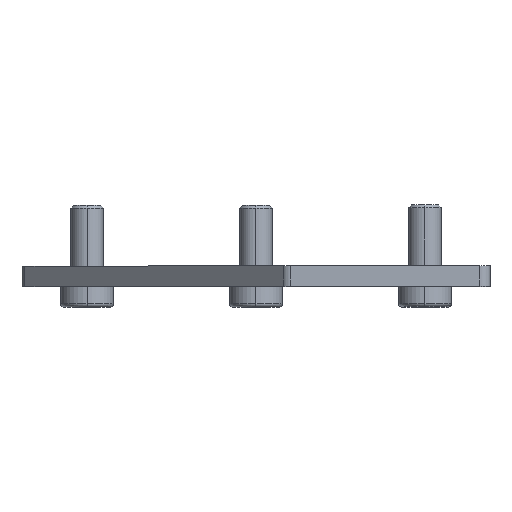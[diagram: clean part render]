
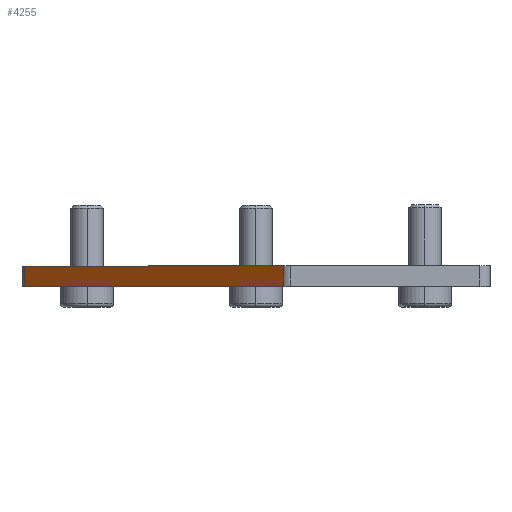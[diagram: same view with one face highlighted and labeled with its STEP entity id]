
A CAD part, top view. The second image highlights one B-rep face of the part: STEP entity #4255.
In plain terms, the highlighted planar face has unit normal (-0.707, 0, 0.707).
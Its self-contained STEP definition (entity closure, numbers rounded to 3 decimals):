
#368 = CARTESIAN_POINT ( 'NONE',  ( 595.161, 856.619, 1272.617 ) ) ;
#617 = CARTESIAN_POINT ( 'NONE',  ( 658.696, 861.619, 1336.153 ) ) ;
#660 = VECTOR ( 'NONE', #2307, 1000. ) ;
#2241 = VERTEX_POINT ( 'NONE', #4821 ) ;
#2253 = EDGE_CURVE ( 'NONE', #7002, #3019, #6552, .T. ) ;
#2307 = DIRECTION ( 'NONE',  ( 0.707, 0., 0.707 ) ) ;
#2325 = EDGE_CURVE ( 'NONE', #7002, #4850, #4448, .T. ) ;
#2431 = FACE_OUTER_BOUND ( 'NONE', #3862, .T. ) ;
#2946 = VECTOR ( 'NONE', #5824, 1000. ) ;
#2968 = DIRECTION ( 'NONE',  ( -0.707, 0., -0.707 ) ) ;
#3019 = VERTEX_POINT ( 'NONE', #368 ) ;
#3029 = DIRECTION ( 'NONE',  ( 0., 1., 0. ) ) ;
#3387 = AXIS2_PLACEMENT_3D ( 'NONE', #4583, #6687, #2968 ) ;
#3569 = LINE ( 'NONE', #5710, #4009 ) ;
#3701 = CARTESIAN_POINT ( 'NONE',  ( 659.429, 856.619, 1336.885 ) ) ;
#3717 = ORIENTED_EDGE ( 'NONE', *, *, #6373, .T. ) ;
#3862 = EDGE_LOOP ( 'NONE', ( #3717, #5640, #4410, #5346 ) ) ;
#3897 = DIRECTION ( 'NONE',  ( 0., -1., 0. ) ) ;
#4009 = VECTOR ( 'NONE', #3029, 1000. ) ;
#4255 = ADVANCED_FACE ( 'NONE', ( #2431 ), #6215, .F. ) ;
#4410 = ORIENTED_EDGE ( 'NONE', *, *, #2325, .F. ) ;
#4448 = LINE ( 'NONE', #6054, #660 ) ;
#4583 = CARTESIAN_POINT ( 'NONE',  ( 659.429, 861.619, 1336.885 ) ) ;
#4821 = CARTESIAN_POINT ( 'NONE',  ( 658.696, 856.619, 1336.153 ) ) ;
#4850 = VERTEX_POINT ( 'NONE', #617 ) ;
#5095 = VECTOR ( 'NONE', #3897, 1000. ) ;
#5346 = ORIENTED_EDGE ( 'NONE', *, *, #2253, .T. ) ;
#5640 = ORIENTED_EDGE ( 'NONE', *, *, #5674, .T. ) ;
#5674 = EDGE_CURVE ( 'NONE', #2241, #4850, #3569, .T. ) ;
#5710 = CARTESIAN_POINT ( 'NONE',  ( 658.696, 861.619, 1336.153 ) ) ;
#5824 = DIRECTION ( 'NONE',  ( 0.707, 0., 0.707 ) ) ;
#5909 = CARTESIAN_POINT ( 'NONE',  ( 595.161, 861.619, 1272.617 ) ) ;
#6054 = CARTESIAN_POINT ( 'NONE',  ( 659.429, 861.619, 1336.885 ) ) ;
#6100 = CARTESIAN_POINT ( 'NONE',  ( 595.161, 861.619, 1272.617 ) ) ;
#6215 = PLANE ( 'NONE',  #3387 ) ;
#6373 = EDGE_CURVE ( 'NONE', #3019, #2241, #6383, .T. ) ;
#6383 = LINE ( 'NONE', #3701, #2946 ) ;
#6552 = LINE ( 'NONE', #5909, #5095 ) ;
#6687 = DIRECTION ( 'NONE',  ( 0.707, 0., -0.707 ) ) ;
#7002 = VERTEX_POINT ( 'NONE', #6100 ) ;
